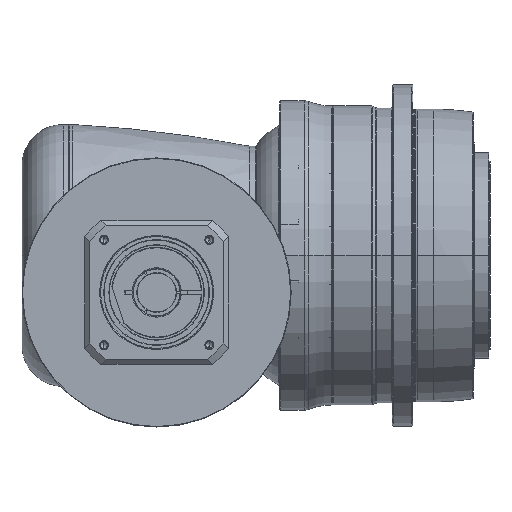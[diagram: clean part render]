
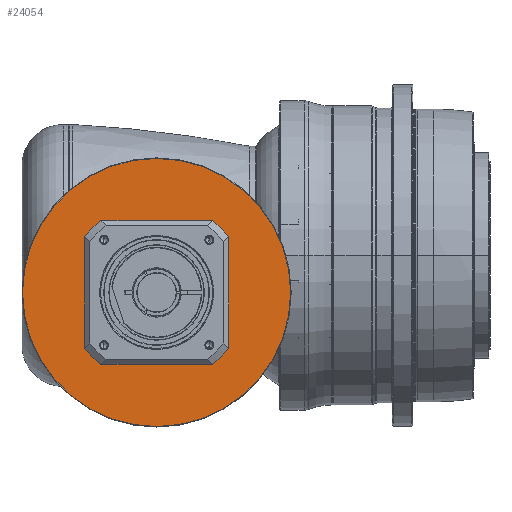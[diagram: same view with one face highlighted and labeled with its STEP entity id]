
A CAD part, front view. The second image highlights one B-rep face of the part: STEP entity #24054.
In plain terms, the highlighted planar face has unit normal (0, -1, 0) as drawn and (1, 0, 0) by its records, which use the part's own axes.
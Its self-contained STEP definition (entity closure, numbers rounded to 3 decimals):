
#22743=CARTESIAN_POINT('',(-3.5,0.,0.));
#22744=DIRECTION('',(-1.,0.,0.));
#22745=DIRECTION('',(0.,-1.,0.));
#22746=AXIS2_PLACEMENT_3D('',#22743,#22744,#22745);
#22748=CARTESIAN_POINT('',(-3.5,0.,0.));
#22749=DIRECTION('',(-1.,0.,0.));
#22750=DIRECTION('',(0.,1.,0.));
#22751=AXIS2_PLACEMENT_3D('',#22748,#22749,#22750);
#22753=CARTESIAN_POINT('',(-3.5,0.,0.));
#22754=DIRECTION('',(-1.,0.,0.));
#22755=DIRECTION('',(0.,-1.,0.));
#22756=AXIS2_PLACEMENT_3D('',#22753,#22754,#22755);
#22758=CARTESIAN_POINT('',(-3.5,0.,0.));
#22759=DIRECTION('',(-1.,0.,0.));
#22760=DIRECTION('',(0.,1.,0.));
#22761=AXIS2_PLACEMENT_3D('',#22758,#22759,#22760);
#23017=CARTESIAN_POINT('',(-3.5,-130.5,0.));
#23018=CARTESIAN_POINT('',(-3.5,130.5,0.));
#23019=VERTEX_POINT('',#23017);
#23020=VERTEX_POINT('',#23018);
#23033=CARTESIAN_POINT('',(-3.5,-70.,0.));
#23034=CARTESIAN_POINT('',(-3.5,70.,0.));
#23035=VERTEX_POINT('',#23033);
#23036=VERTEX_POINT('',#23034);
#24039=CARTESIAN_POINT('',(-3.5,0.,0.));
#24040=DIRECTION('',(1.,0.,0.));
#24041=DIRECTION('',(0.,-1.,0.));
#24042=AXIS2_PLACEMENT_3D('',#24039,#24040,#24041);
#24043=PLANE('',#24042);
#24044=ORIENTED_EDGE('',*,*,#23995,.T.);
#24045=ORIENTED_EDGE('',*,*,#23980,.T.);
#24046=EDGE_LOOP('',(#24044,#24045));
#24047=FACE_OUTER_BOUND('',#24046,.F.);
#24049=ORIENTED_EDGE('',*,*,#24048,.F.);
#24051=ORIENTED_EDGE('',*,*,#24050,.F.);
#24052=EDGE_LOOP('',(#24049,#24051));
#24053=FACE_BOUND('',#24052,.F.);
#24054=ADVANCED_FACE('',(#24047,#24053),#24043,.T.);
#22747=CIRCLE('',#22746,70.);
#22752=CIRCLE('',#22751,70.);
#22757=CIRCLE('',#22756,130.5);
#22762=CIRCLE('',#22761,130.5);
#23980=EDGE_CURVE('',#23020,#23019,#22762,.T.);
#23995=EDGE_CURVE('',#23019,#23020,#22757,.T.);
#24048=EDGE_CURVE('',#23035,#23036,#22747,.T.);
#24050=EDGE_CURVE('',#23036,#23035,#22752,.T.);
